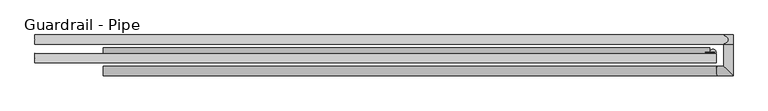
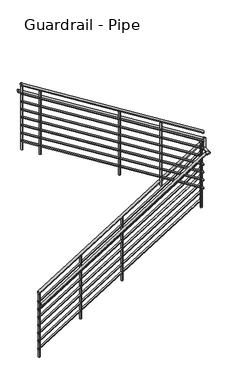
"""IFC4 building model written with IfcOpenShell, lengths in millimetres: railing geometry, Guardrail - Pipe."""

from ifc_helpers import new_model, si_unit, point, frame, frame_2d, origin, place, context, project, spatial, circle_curve, ellipse_curve, trimmed, segment, composite_curve, outline, extrude, faceted_brep, source, transform, mapped, element, save
from ifc_brep_helpers import plane_surface, cylinder_surface, advanced_brep


def guardrail_pipe_2feb66e3(model_context):
    return source(origin(), model_context, "Body", "SolidModel", [
        advanced_brep(
        [(-2631.8939612, 10554.0699505, 1218.5231361), (-2631.8939612, 10515.9699505, 1218.5231361), (-142.6939612, 10554.0699505, 2770.232227), (-142.6939612, 10515.9699505, 2770.232227)],
        [
            (0, 1, ellipse_curve(frame((-2631.8939612, 10535.0199505, 1218.5231361), z_axis=(-1.0, 0.0, 0.0), x_axis=(0.0, 0.0, -1.0)), 22.4482925, 19.05)),
            (1, 0, ellipse_curve(frame((-2631.8939612, 10535.0199505, 1218.5231361), z_axis=(-1.0, 0.0, 0.0), x_axis=(0.0, 0.0, -1.0)), 22.4482925, 19.05)),
            (2, 3, ellipse_curve(frame((-142.6939612, 10535.0199505, 2770.232227), z_axis=(1.0, 0.0, 0.0), x_axis=(0.0, 0.0, -1.0)), 22.4482925, 19.05)),
            (3, 2, ellipse_curve(frame((-142.6939612, 10535.0199505, 2770.232227), z_axis=(1.0, 0.0, 0.0), x_axis=(0.0, 0.0, -1.0)), 22.4482925, 19.05)),
            (0, 2),
            (3, 1),
        ],
        [
            plane_surface(frame((-2631.8939612, 10535.0199505, 1240.9714286), z_axis=(-1.0, 0.0, 0.0), x_axis=(0.0, 1.0, 0.0))),
            plane_surface(frame((-142.6939612, 10535.0199505, 2792.6805195), z_axis=(1.0, 0.0, 0.0), x_axis=(0.0, 1.0, 0.0))),
            cylinder_surface(frame((-2621.8163602, 10535.0199505, 1224.805277), z_axis=(-0.8486168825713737, 0.0, -0.5290079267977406), x_axis=(0.0, -1.0, 0.0)), 19.05),
        ],
        [
            (0, [[1, 2]]),
            (1, [[3, 4]]),
            (2, [[-1, 5, -4, 6]]),
            (2, [[-2, -6, -3, -5]]),
        ],
    ),
        advanced_brep(
        [(-161.7439612, 10535.0199505, 2789.4642857), (-123.6439612, 10535.0199505, 2789.4642857), (-161.7439612, 10536.659643, 2789.4642857), (-123.6439612, 10536.659643, 2789.4642857)],
        [
            (0, 1, circle_curve(frame((-142.6939612, 10535.0199505, 2789.4642857), z_axis=(0.0, -1.0, 0.0), x_axis=(1.0, 0.0, 0.0)), 19.05)),
            (1, 0, circle_curve(frame((-142.6939612, 10535.0199505, 2789.4642857), z_axis=(0.0, -1.0, 0.0), x_axis=(1.0, 0.0, 0.0)), 19.05)),
            (2, 3, circle_curve(frame((-142.6939612, 10536.659643, 2789.4642857), z_axis=(0.0, 1.0, 0.0), x_axis=(1.0, 0.0, 0.0)), 19.05)),
            (3, 2, circle_curve(frame((-142.6939612, 10536.659643, 2789.4642857), z_axis=(0.0, 1.0, 0.0), x_axis=(1.0, 0.0, 0.0)), 19.05)),
            (0, 2),
            (3, 1),
        ],
        [
            plane_surface(frame((-142.6939612, 10535.0199505, 2808.5142857), z_axis=(0.0, -1.0, 0.0), x_axis=(0.0, 0.0, 1.0))),
            plane_surface(frame((-142.6939612, 10536.659643, 2808.5142857), z_axis=(0.0, 1.0, 0.0), x_axis=(0.0, 0.0, 1.0))),
            cylinder_surface(frame((-142.6939612, 10535.0199505, 2789.4642857), z_axis=(0.0, -1.0, 0.0), x_axis=(1.0, 0.0, 0.0)), 19.05),
        ],
        [
            (0, [[1, 2]]),
            (1, [[3, 4]]),
            (2, [[-1, 5, -4, 6]]),
            (2, [[-2, -6, -3, -5]]),
        ],
    ),
        advanced_brep(
        [(-117.2939612, 10492.209643, 2960.2374218), (-117.2939612, 10530.309643, 2960.2374218), (-2911.2939612, 10492.209643, 4701.9517075), (-2911.2939612, 10530.309643, 4701.9517075)],
        [
            (0, 1, ellipse_curve(frame((-117.2939612, 10511.259643, 2960.2374218), z_axis=(1.0, 0.0, 0.0), x_axis=(0.0, 0.0, -1.0)), 22.4482925, 19.05)),
            (1, 0, ellipse_curve(frame((-117.2939612, 10511.259643, 2960.2374218), z_axis=(1.0, 0.0, 0.0), x_axis=(0.0, 0.0, -1.0)), 22.4482925, 19.05)),
            (2, 3, ellipse_curve(frame((-2911.2939612, 10511.259643, 4701.9517075), z_axis=(-1.0, 0.0, 0.0), x_axis=(0.0, 0.0, -1.0)), 22.4482925, 19.05)),
            (3, 2, ellipse_curve(frame((-2911.2939612, 10511.259643, 4701.9517075), z_axis=(-1.0, 0.0, 0.0), x_axis=(0.0, 0.0, -1.0)), 22.4482925, 19.05)),
            (0, 2),
            (3, 1),
        ],
        [
            plane_surface(frame((-117.2939612, 10511.259643, 2982.6857143), z_axis=(1.0, 0.0, 0.0), x_axis=(0.0, -1.0, 0.0))),
            plane_surface(frame((-2911.2939612, 10511.259643, 4724.4), z_axis=(-1.0, 0.0, 0.0), x_axis=(0.0, -1.0, 0.0))),
            cylinder_surface(frame((-127.3715622, 10511.259643, 2966.5195627), z_axis=(0.8486168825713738, 0.0, -0.5290079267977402), x_axis=(0.0, 1.0, 0.0)), 19.05),
        ],
        [
            (0, [[1, 2]]),
            (1, [[3, 4]]),
            (2, [[-1, 5, -4, 6]]),
            (2, [[-2, -6, -3, -5]]),
        ],
    ),
        advanced_brep(
        [(-2631.8939612, 10547.7199505, 1073.6059002), (-2631.8939612, 10522.3199505, 1073.6059002), (-142.6939612, 10547.7199505, 2625.3149911), (-142.6939612, 10522.3199505, 2625.3149911)],
        [
            (0, 1, ellipse_curve(frame((-2631.8939612, 10535.0199505, 1073.6059002), z_axis=(-1.0, 0.0, 0.0), x_axis=(0.0, 0.0, -1.0)), 14.9655283, 12.7)),
            (1, 0, ellipse_curve(frame((-2631.8939612, 10535.0199505, 1073.6059002), z_axis=(-1.0, 0.0, 0.0), x_axis=(0.0, 0.0, -1.0)), 14.9655283, 12.7)),
            (2, 3, ellipse_curve(frame((-142.6939612, 10535.0199505, 2625.3149911), z_axis=(1.0, 0.0, 0.0), x_axis=(0.0, 0.0, -1.0)), 14.9655283, 12.7)),
            (3, 2, ellipse_curve(frame((-142.6939612, 10535.0199505, 2625.3149911), z_axis=(1.0, 0.0, 0.0), x_axis=(0.0, 0.0, -1.0)), 14.9655283, 12.7)),
            (0, 2),
            (3, 1),
        ],
        [
            plane_surface(frame((-2631.8939612, 10535.0199505, 1088.5714286), z_axis=(-1.0, 0.0, 0.0), x_axis=(0.0, 1.0, 0.0))),
            plane_surface(frame((-142.6939612, 10535.0199505, 2640.2805195), z_axis=(1.0, 0.0, 0.0), x_axis=(0.0, 1.0, 0.0))),
            cylinder_surface(frame((-2625.1755605, 10535.0199505, 1077.7939942), z_axis=(-0.8486168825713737, 0.0, -0.5290079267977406), x_axis=(0.0, -1.0, 0.0)), 12.7),
        ],
        [
            (0, [[1, 2]]),
            (1, [[3, 4]]),
            (2, [[-1, 5, -4, 6]]),
            (2, [[-2, -6, -3, -5]]),
        ],
    ),
        advanced_brep(
        [(-155.3939612, 10535.0199505, 2643.4142857), (-129.9939612, 10535.0199505, 2643.4142857), (-155.3939612, 10536.659643, 2643.4142857), (-129.9939612, 10536.659643, 2643.4142857)],
        [
            (0, 1, circle_curve(frame((-142.6939612, 10535.0199505, 2643.4142857), z_axis=(0.0, -1.0, 0.0), x_axis=(1.0, 0.0, 0.0)), 12.7)),
            (1, 0, circle_curve(frame((-142.6939612, 10535.0199505, 2643.4142857), z_axis=(0.0, -1.0, 0.0), x_axis=(1.0, 0.0, 0.0)), 12.7)),
            (2, 3, circle_curve(frame((-142.6939612, 10536.659643, 2643.4142857), z_axis=(0.0, 1.0, 0.0), x_axis=(1.0, 0.0, 0.0)), 12.7)),
            (3, 2, circle_curve(frame((-142.6939612, 10536.659643, 2643.4142857), z_axis=(0.0, 1.0, 0.0), x_axis=(1.0, 0.0, 0.0)), 12.7)),
            (0, 2),
            (3, 1),
        ],
        [
            plane_surface(frame((-142.6939612, 10535.0199505, 2656.1142857), z_axis=(0.0, -1.0, 0.0), x_axis=(0.0, 0.0, 1.0))),
            plane_surface(frame((-142.6939612, 10536.659643, 2656.1142857), z_axis=(0.0, 1.0, 0.0), x_axis=(0.0, 0.0, 1.0))),
            cylinder_surface(frame((-142.6939612, 10535.0199505, 2643.4142857), z_axis=(0.0, -1.0, 0.0), x_axis=(1.0, 0.0, 0.0)), 12.7),
        ],
        [
            (0, [[1, 2]]),
            (1, [[3, 4]]),
            (2, [[-1, 5, -4, 6]]),
            (2, [[-2, -6, -3, -5]]),
        ],
    ),
        advanced_brep(
        [(-117.2939612, 10498.559643, 2815.320186), (-117.2939612, 10523.959643, 2815.320186), (-2911.2939612, 10498.559643, 4557.0344717), (-2911.2939612, 10523.959643, 4557.0344717)],
        [
            (0, 1, ellipse_curve(frame((-117.2939612, 10511.259643, 2815.320186), z_axis=(1.0, 0.0, 0.0), x_axis=(0.0, 0.0, -1.0)), 14.9655283, 12.7)),
            (1, 0, ellipse_curve(frame((-117.2939612, 10511.259643, 2815.320186), z_axis=(1.0, 0.0, 0.0), x_axis=(0.0, 0.0, -1.0)), 14.9655283, 12.7)),
            (2, 3, ellipse_curve(frame((-2911.2939612, 10511.259643, 4557.0344717), z_axis=(-1.0, 0.0, 0.0), x_axis=(0.0, 0.0, -1.0)), 14.9655283, 12.7)),
            (3, 2, ellipse_curve(frame((-2911.2939612, 10511.259643, 4557.0344717), z_axis=(-1.0, 0.0, 0.0), x_axis=(0.0, 0.0, -1.0)), 14.9655283, 12.7)),
            (0, 2),
            (3, 1),
        ],
        [
            plane_surface(frame((-117.2939612, 10511.259643, 2830.2857143), z_axis=(1.0, 0.0, 0.0), x_axis=(0.0, -1.0, 0.0))),
            plane_surface(frame((-2911.2939612, 10511.259643, 4572.0), z_axis=(-1.0, 0.0, 0.0), x_axis=(0.0, -1.0, 0.0))),
            cylinder_surface(frame((-124.0123619, 10511.259643, 2819.5082799), z_axis=(0.8486168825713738, 0.0, -0.5290079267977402), x_axis=(0.0, 1.0, 0.0)), 12.7),
        ],
        [
            (0, [[1, 2]]),
            (1, [[3, 4]]),
            (2, [[-1, 5, -4, 6]]),
            (2, [[-2, -6, -3, -5]]),
        ],
    ),
        advanced_brep(
        [(-2631.8939612, 10477.8699505, 1066.1231361), (-2631.8939612, 10439.7699505, 1066.1231361), (-111.8425336, 10477.8699505, 2637.0642857), (-111.8425336, 10439.7699505, 2637.0642857), (-85.5439612, 10477.8699505, 2637.0642857), (-47.4439612, 10439.7699505, 2637.0642857), (-85.5439612, 10587.459643, 2637.0642857), (-47.4439612, 10587.459643, 2637.0642857)],
        [
            (0, 1, ellipse_curve(frame((-2631.8939612, 10458.8199505, 1066.1231361), z_axis=(-1.0, 0.0, 0.0), x_axis=(0.0, 0.0, -1.0)), 22.4482925, 19.05)),
            (1, 0, ellipse_curve(frame((-2631.8939612, 10458.8199505, 1066.1231361), z_axis=(-1.0, 0.0, 0.0), x_axis=(0.0, 0.0, -1.0)), 22.4482925, 19.05)),
            (0, 2),
            (2, 3, ellipse_curve(frame((-111.8425336, 10458.8199505, 2637.0642857), z_axis=(-0.9614096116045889, 0.0, -0.275120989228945), x_axis=(0.27512098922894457, 0.0, -0.9614096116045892)), 19.8146552, 19.05)),
            (3, 1),
            (3, 2, ellipse_curve(frame((-111.8425336, 10458.8199505, 2637.0642857), z_axis=(-0.9614096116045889, 0.0, -0.275120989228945), x_axis=(0.27512098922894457, 0.0, -0.9614096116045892)), 19.8146552, 19.05)),
            (2, 4),
            (4, 5, ellipse_curve(frame((-66.4939612, 10458.8199505, 2637.0642857), z_axis=(-0.7071067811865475, -0.7071067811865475, 0.0), x_axis=(-0.7071067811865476, 0.7071067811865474, 0.0)), 26.9407684, 19.05)),
            (5, 3),
            (5, 4, ellipse_curve(frame((-66.4939612, 10458.8199505, 2637.0642857), z_axis=(-0.7071067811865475, -0.7071067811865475, 0.0), x_axis=(-0.7071067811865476, 0.7071067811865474, 0.0)), 26.9407684, 19.05)),
            (6, 7, circle_curve(frame((-66.4939612, 10587.459643, 2637.0642857), z_axis=(0.0, 1.0, 0.0), x_axis=(1.0, 0.0, 0.0)), 19.05)),
            (7, 6, circle_curve(frame((-66.4939612, 10587.459643, 2637.0642857), z_axis=(0.0, 1.0, 0.0), x_axis=(1.0, 0.0, 0.0)), 19.05)),
            (4, 6),
            (7, 5),
        ],
        [
            plane_surface(frame((-2631.8939612, 10458.8199505, 1088.5714286), z_axis=(-1.0, 0.0, 0.0), x_axis=(0.0, 1.0, 0.0))),
            cylinder_surface(frame((-2621.8163602, 10458.8199505, 1072.405277), z_axis=(-0.8486168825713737, 0.0, -0.5290079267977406), x_axis=(0.0, -1.0, 0.0)), 19.05),
            cylinder_surface(frame((-117.2939612, 10458.8199505, 2637.0642857), z_axis=(-1.0, 0.0, 0.0), x_axis=(0.0, -1.0, 0.0)), 19.05),
            plane_surface(frame((-66.4939612, 10587.459643, 2656.1142857), z_axis=(0.0, 1.0, 0.0), x_axis=(0.0, 0.0, 1.0))),
            cylinder_surface(frame((-66.4939612, 10458.8199505, 2637.0642857), z_axis=(0.0, -1.0, 0.0), x_axis=(1.0, 0.0, 0.0)), 19.05),
        ],
        [
            (0, [[1, 2]]),
            (1, [[-1, 3, 4, 5]]),
            (1, [[-2, -5, 6, -3]]),
            (2, [[-4, 7, 8, 9]]),
            (2, [[-6, -9, 10, -7]]),
            (3, [[11, 12]]),
            (4, [[-8, 13, -12, 14]]),
            (4, [[-10, -14, -11, -13]]),
        ],
    ),
        faceted_brep([(-85.5439612, 10606.509643, 2618.0142857), (-47.4439612, 10606.509643, 2618.0142857), (-47.4439612, 10568.409643, 2618.0142857), (-85.5439612, 10568.409643, 2618.0142857), (-85.5439612, 10606.509643, 2798.6181818), (-85.5439612, 10568.409643, 2798.6181818), (-47.4439612, 10568.409643, 2798.6181818), (-47.4439612, 10606.509643, 2798.6181818)], [[[0, 1, 2, 3]], [[4, 5, 6, 7]], [[1, 0, 4, 7]], [[2, 1, 7, 6]], [[3, 2, 6, 5]], [[0, 3, 5, 4]]]),
        advanced_brep(
        [(-66.4939612, 10568.409643, 2776.1698893), (-66.4939612, 10606.509643, 2776.1698893), (-2911.2939612, 10568.409643, 4549.5517075), (-2911.2939612, 10606.509643, 4549.5517075)],
        [
            (0, 1, ellipse_curve(frame((-66.4939612, 10587.459643, 2776.1698893), z_axis=(1.0, 0.0, 0.0), x_axis=(0.0, 0.0, -1.0)), 22.4482925, 19.05)),
            (1, 0, ellipse_curve(frame((-66.4939612, 10587.459643, 2776.1698893), z_axis=(1.0, 0.0, 0.0), x_axis=(0.0, 0.0, -1.0)), 22.4482925, 19.05)),
            (2, 3, ellipse_curve(frame((-2911.2939612, 10587.459643, 4549.5517075), z_axis=(-1.0, 0.0, 0.0), x_axis=(0.0, 0.0, -1.0)), 22.4482925, 19.05)),
            (3, 2, ellipse_curve(frame((-2911.2939612, 10587.459643, 4549.5517075), z_axis=(-1.0, 0.0, 0.0), x_axis=(0.0, 0.0, -1.0)), 22.4482925, 19.05)),
            (0, 2),
            (3, 1),
        ],
        [
            plane_surface(frame((-66.4939612, 10587.459643, 2798.6181818), z_axis=(1.0, 0.0, 0.0), x_axis=(0.0, -1.0, 0.0))),
            plane_surface(frame((-2911.2939612, 10587.459643, 4572.0), z_axis=(-1.0, 0.0, 0.0), x_axis=(0.0, -1.0, 0.0))),
            cylinder_surface(frame((-76.5715622, 10587.459643, 2782.4520302), z_axis=(0.8486168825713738, 0.0, -0.5290079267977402), x_axis=(0.0, 1.0, 0.0)), 19.05),
        ],
        [
            (0, [[1, 2]]),
            (1, [[3, 4]]),
            (2, [[-1, 5, -4, 6]]),
            (2, [[-2, -6, -3, -5]]),
        ],
    ),
        advanced_brep(
        [(-2631.8939612, 10547.7199505, 946.6059002), (-2631.8939612, 10522.3199505, 946.6059002), (-142.6939612, 10547.7199505, 2498.3149911), (-142.6939612, 10522.3199505, 2498.3149911)],
        [
            (0, 1, ellipse_curve(frame((-2631.8939612, 10535.0199505, 946.6059002), z_axis=(-1.0, 0.0, 0.0), x_axis=(0.0, 0.0, -1.0)), 14.9655283, 12.7)),
            (1, 0, ellipse_curve(frame((-2631.8939612, 10535.0199505, 946.6059002), z_axis=(-1.0, 0.0, 0.0), x_axis=(0.0, 0.0, -1.0)), 14.9655283, 12.7)),
            (2, 3, ellipse_curve(frame((-142.6939612, 10535.0199505, 2498.3149911), z_axis=(1.0, 0.0, 0.0), x_axis=(0.0, 0.0, -1.0)), 14.9655283, 12.7)),
            (3, 2, ellipse_curve(frame((-142.6939612, 10535.0199505, 2498.3149911), z_axis=(1.0, 0.0, 0.0), x_axis=(0.0, 0.0, -1.0)), 14.9655283, 12.7)),
            (0, 2),
            (3, 1),
        ],
        [
            plane_surface(frame((-2631.8939612, 10535.0199505, 961.5714286), z_axis=(-1.0, 0.0, 0.0), x_axis=(0.0, 1.0, 0.0))),
            plane_surface(frame((-142.6939612, 10535.0199505, 2513.2805195), z_axis=(1.0, 0.0, 0.0), x_axis=(0.0, 1.0, 0.0))),
            cylinder_surface(frame((-2625.1755605, 10535.0199505, 950.7939942), z_axis=(-0.8486168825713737, 0.0, -0.5290079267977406), x_axis=(0.0, -1.0, 0.0)), 12.7),
        ],
        [
            (0, [[1, 2]]),
            (1, [[3, 4]]),
            (2, [[-1, 5, -4, 6]]),
            (2, [[-2, -6, -3, -5]]),
        ],
    ),
        advanced_brep(
        [(-155.3939612, 10535.0199505, 2516.4142857), (-129.9939612, 10535.0199505, 2516.4142857), (-155.3939612, 10536.659643, 2516.4142857), (-129.9939612, 10536.659643, 2516.4142857)],
        [
            (0, 1, circle_curve(frame((-142.6939612, 10535.0199505, 2516.4142857), z_axis=(0.0, -1.0, 0.0), x_axis=(1.0, 0.0, 0.0)), 12.7)),
            (1, 0, circle_curve(frame((-142.6939612, 10535.0199505, 2516.4142857), z_axis=(0.0, -1.0, 0.0), x_axis=(1.0, 0.0, 0.0)), 12.7)),
            (2, 3, circle_curve(frame((-142.6939612, 10536.659643, 2516.4142857), z_axis=(0.0, 1.0, 0.0), x_axis=(1.0, 0.0, 0.0)), 12.7)),
            (3, 2, circle_curve(frame((-142.6939612, 10536.659643, 2516.4142857), z_axis=(0.0, 1.0, 0.0), x_axis=(1.0, 0.0, 0.0)), 12.7)),
            (0, 2),
            (3, 1),
        ],
        [
            plane_surface(frame((-142.6939612, 10535.0199505, 2529.1142857), z_axis=(0.0, -1.0, 0.0), x_axis=(0.0, 0.0, 1.0))),
            plane_surface(frame((-142.6939612, 10536.659643, 2529.1142857), z_axis=(0.0, 1.0, 0.0), x_axis=(0.0, 0.0, 1.0))),
            cylinder_surface(frame((-142.6939612, 10535.0199505, 2516.4142857), z_axis=(0.0, -1.0, 0.0), x_axis=(1.0, 0.0, 0.0)), 12.7),
        ],
        [
            (0, [[1, 2]]),
            (1, [[3, 4]]),
            (2, [[-1, 5, -4, 6]]),
            (2, [[-2, -6, -3, -5]]),
        ],
    ),
        advanced_brep(
        [(-117.2939612, 10498.559643, 2688.320186), (-117.2939612, 10523.959643, 2688.320186), (-2911.2939612, 10498.559643, 4430.0344717), (-2911.2939612, 10523.959643, 4430.0344717)],
        [
            (0, 1, ellipse_curve(frame((-117.2939612, 10511.259643, 2688.320186), z_axis=(1.0, 0.0, 0.0), x_axis=(0.0, 0.0, -1.0)), 14.9655283, 12.7)),
            (1, 0, ellipse_curve(frame((-117.2939612, 10511.259643, 2688.320186), z_axis=(1.0, 0.0, 0.0), x_axis=(0.0, 0.0, -1.0)), 14.9655283, 12.7)),
            (2, 3, ellipse_curve(frame((-2911.2939612, 10511.259643, 4430.0344717), z_axis=(-1.0, 0.0, 0.0), x_axis=(0.0, 0.0, -1.0)), 14.9655283, 12.7)),
            (3, 2, ellipse_curve(frame((-2911.2939612, 10511.259643, 4430.0344717), z_axis=(-1.0, 0.0, 0.0), x_axis=(0.0, 0.0, -1.0)), 14.9655283, 12.7)),
            (0, 2),
            (3, 1),
        ],
        [
            plane_surface(frame((-117.2939612, 10511.259643, 2703.2857143), z_axis=(1.0, 0.0, 0.0), x_axis=(0.0, -1.0, 0.0))),
            plane_surface(frame((-2911.2939612, 10511.259643, 4445.0), z_axis=(-1.0, 0.0, 0.0), x_axis=(0.0, -1.0, 0.0))),
            cylinder_surface(frame((-124.0123619, 10511.259643, 2692.5082799), z_axis=(0.8486168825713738, 0.0, -0.5290079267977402), x_axis=(0.0, 1.0, 0.0)), 12.7),
        ],
        [
            (0, [[1, 2]]),
            (1, [[3, 4]]),
            (2, [[-1, 5, -4, 6]]),
            (2, [[-2, -6, -3, -5]]),
        ],
    ),
        advanced_brep(
        [(-2631.8939612, 10547.7199505, 819.6059002), (-2631.8939612, 10522.3199505, 819.6059002), (-142.6939612, 10547.7199505, 2371.3149911), (-142.6939612, 10522.3199505, 2371.3149911)],
        [
            (0, 1, ellipse_curve(frame((-2631.8939612, 10535.0199505, 819.6059002), z_axis=(-1.0, 0.0, 0.0), x_axis=(0.0, 0.0, -1.0)), 14.9655283, 12.7)),
            (1, 0, ellipse_curve(frame((-2631.8939612, 10535.0199505, 819.6059002), z_axis=(-1.0, 0.0, 0.0), x_axis=(0.0, 0.0, -1.0)), 14.9655283, 12.7)),
            (2, 3, ellipse_curve(frame((-142.6939612, 10535.0199505, 2371.3149911), z_axis=(1.0, 0.0, 0.0), x_axis=(0.0, 0.0, -1.0)), 14.9655283, 12.7)),
            (3, 2, ellipse_curve(frame((-142.6939612, 10535.0199505, 2371.3149911), z_axis=(1.0, 0.0, 0.0), x_axis=(0.0, 0.0, -1.0)), 14.9655283, 12.7)),
            (0, 2),
            (3, 1),
        ],
        [
            plane_surface(frame((-2631.8939612, 10535.0199505, 834.5714286), z_axis=(-1.0, 0.0, 0.0), x_axis=(0.0, 1.0, 0.0))),
            plane_surface(frame((-142.6939612, 10535.0199505, 2386.2805195), z_axis=(1.0, 0.0, 0.0), x_axis=(0.0, 1.0, 0.0))),
            cylinder_surface(frame((-2625.1755605, 10535.0199505, 823.7939942), z_axis=(-0.8486168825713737, 0.0, -0.5290079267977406), x_axis=(0.0, -1.0, 0.0)), 12.7),
        ],
        [
            (0, [[1, 2]]),
            (1, [[3, 4]]),
            (2, [[-1, 5, -4, 6]]),
            (2, [[-2, -6, -3, -5]]),
        ],
    ),
        advanced_brep(
        [(-155.3939612, 10535.0199505, 2389.4142857), (-129.9939612, 10535.0199505, 2389.4142857), (-155.3939612, 10536.659643, 2389.4142857), (-129.9939612, 10536.659643, 2389.4142857)],
        [
            (0, 1, circle_curve(frame((-142.6939612, 10535.0199505, 2389.4142857), z_axis=(0.0, -1.0, 0.0), x_axis=(1.0, 0.0, 0.0)), 12.7)),
            (1, 0, circle_curve(frame((-142.6939612, 10535.0199505, 2389.4142857), z_axis=(0.0, -1.0, 0.0), x_axis=(1.0, 0.0, 0.0)), 12.7)),
            (2, 3, circle_curve(frame((-142.6939612, 10536.659643, 2389.4142857), z_axis=(0.0, 1.0, 0.0), x_axis=(1.0, 0.0, 0.0)), 12.7)),
            (3, 2, circle_curve(frame((-142.6939612, 10536.659643, 2389.4142857), z_axis=(0.0, 1.0, 0.0), x_axis=(1.0, 0.0, 0.0)), 12.7)),
            (0, 2),
            (3, 1),
        ],
        [
            plane_surface(frame((-142.6939612, 10535.0199505, 2402.1142857), z_axis=(0.0, -1.0, 0.0), x_axis=(0.0, 0.0, 1.0))),
            plane_surface(frame((-142.6939612, 10536.659643, 2402.1142857), z_axis=(0.0, 1.0, 0.0), x_axis=(0.0, 0.0, 1.0))),
            cylinder_surface(frame((-142.6939612, 10535.0199505, 2389.4142857), z_axis=(0.0, -1.0, 0.0), x_axis=(1.0, 0.0, 0.0)), 12.7),
        ],
        [
            (0, [[1, 2]]),
            (1, [[3, 4]]),
            (2, [[-1, 5, -4, 6]]),
            (2, [[-2, -6, -3, -5]]),
        ],
    ),
        advanced_brep(
        [(-117.2939612, 10498.559643, 2561.320186), (-117.2939612, 10523.959643, 2561.320186), (-2911.2939612, 10498.559643, 4303.0344717), (-2911.2939612, 10523.959643, 4303.0344717)],
        [
            (0, 1, ellipse_curve(frame((-117.2939612, 10511.259643, 2561.320186), z_axis=(1.0, 0.0, 0.0), x_axis=(0.0, 0.0, -1.0)), 14.9655283, 12.7)),
            (1, 0, ellipse_curve(frame((-117.2939612, 10511.259643, 2561.320186), z_axis=(1.0, 0.0, 0.0), x_axis=(0.0, 0.0, -1.0)), 14.9655283, 12.7)),
            (2, 3, ellipse_curve(frame((-2911.2939612, 10511.259643, 4303.0344717), z_axis=(-1.0, 0.0, 0.0), x_axis=(0.0, 0.0, -1.0)), 14.9655283, 12.7)),
            (3, 2, ellipse_curve(frame((-2911.2939612, 10511.259643, 4303.0344717), z_axis=(-1.0, 0.0, 0.0), x_axis=(0.0, 0.0, -1.0)), 14.9655283, 12.7)),
            (0, 2),
            (3, 1),
        ],
        [
            plane_surface(frame((-117.2939612, 10511.259643, 2576.2857143), z_axis=(1.0, 0.0, 0.0), x_axis=(0.0, -1.0, 0.0))),
            plane_surface(frame((-2911.2939612, 10511.259643, 4318.0), z_axis=(-1.0, 0.0, 0.0), x_axis=(0.0, -1.0, 0.0))),
            cylinder_surface(frame((-124.0123619, 10511.259643, 2565.5082799), z_axis=(0.8486168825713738, 0.0, -0.5290079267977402), x_axis=(0.0, 1.0, 0.0)), 12.7),
        ],
        [
            (0, [[1, 2]]),
            (1, [[3, 4]]),
            (2, [[-1, 5, -4, 6]]),
            (2, [[-2, -6, -3, -5]]),
        ],
    ),
        advanced_brep(
        [(-2631.8939612, 10547.7199505, 692.6059002), (-2631.8939612, 10522.3199505, 692.6059002), (-142.6939612, 10547.7199505, 2244.3149911), (-142.6939612, 10522.3199505, 2244.3149911)],
        [
            (0, 1, ellipse_curve(frame((-2631.8939612, 10535.0199505, 692.6059002), z_axis=(-1.0, 0.0, 0.0), x_axis=(0.0, 0.0, -1.0)), 14.9655283, 12.7)),
            (1, 0, ellipse_curve(frame((-2631.8939612, 10535.0199505, 692.6059002), z_axis=(-1.0, 0.0, 0.0), x_axis=(0.0, 0.0, -1.0)), 14.9655283, 12.7)),
            (2, 3, ellipse_curve(frame((-142.6939612, 10535.0199505, 2244.3149911), z_axis=(1.0, 0.0, 0.0), x_axis=(0.0, 0.0, -1.0)), 14.9655283, 12.7)),
            (3, 2, ellipse_curve(frame((-142.6939612, 10535.0199505, 2244.3149911), z_axis=(1.0, 0.0, 0.0), x_axis=(0.0, 0.0, -1.0)), 14.9655283, 12.7)),
            (0, 2),
            (3, 1),
        ],
        [
            plane_surface(frame((-2631.8939612, 10535.0199505, 707.5714286), z_axis=(-1.0, 0.0, 0.0), x_axis=(0.0, 1.0, 0.0))),
            plane_surface(frame((-142.6939612, 10535.0199505, 2259.2805195), z_axis=(1.0, 0.0, 0.0), x_axis=(0.0, 1.0, 0.0))),
            cylinder_surface(frame((-2625.1755605, 10535.0199505, 696.7939942), z_axis=(-0.8486168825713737, 0.0, -0.5290079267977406), x_axis=(0.0, -1.0, 0.0)), 12.7),
        ],
        [
            (0, [[1, 2]]),
            (1, [[3, 4]]),
            (2, [[-1, 5, -4, 6]]),
            (2, [[-2, -6, -3, -5]]),
        ],
    ),
        advanced_brep(
        [(-155.3939612, 10535.0199505, 2262.4142857), (-129.9939612, 10535.0199505, 2262.4142857), (-155.3939612, 10536.659643, 2262.4142857), (-129.9939612, 10536.659643, 2262.4142857)],
        [
            (0, 1, circle_curve(frame((-142.6939612, 10535.0199505, 2262.4142857), z_axis=(0.0, -1.0, 0.0), x_axis=(1.0, 0.0, 0.0)), 12.7)),
            (1, 0, circle_curve(frame((-142.6939612, 10535.0199505, 2262.4142857), z_axis=(0.0, -1.0, 0.0), x_axis=(1.0, 0.0, 0.0)), 12.7)),
            (2, 3, circle_curve(frame((-142.6939612, 10536.659643, 2262.4142857), z_axis=(0.0, 1.0, 0.0), x_axis=(1.0, 0.0, 0.0)), 12.7)),
            (3, 2, circle_curve(frame((-142.6939612, 10536.659643, 2262.4142857), z_axis=(0.0, 1.0, 0.0), x_axis=(1.0, 0.0, 0.0)), 12.7)),
            (0, 2),
            (3, 1),
        ],
        [
            plane_surface(frame((-142.6939612, 10535.0199505, 2275.1142857), z_axis=(0.0, -1.0, 0.0), x_axis=(0.0, 0.0, 1.0))),
            plane_surface(frame((-142.6939612, 10536.659643, 2275.1142857), z_axis=(0.0, 1.0, 0.0), x_axis=(0.0, 0.0, 1.0))),
            cylinder_surface(frame((-142.6939612, 10535.0199505, 2262.4142857), z_axis=(0.0, -1.0, 0.0), x_axis=(1.0, 0.0, 0.0)), 12.7),
        ],
        [
            (0, [[1, 2]]),
            (1, [[3, 4]]),
            (2, [[-1, 5, -4, 6]]),
            (2, [[-2, -6, -3, -5]]),
        ],
    ),
        advanced_brep(
        [(-117.2939612, 10498.559643, 2434.320186), (-117.2939612, 10523.959643, 2434.320186), (-2911.2939612, 10498.559643, 4176.0344717), (-2911.2939612, 10523.959643, 4176.0344717)],
        [
            (0, 1, ellipse_curve(frame((-117.2939612, 10511.259643, 2434.320186), z_axis=(1.0, 0.0, 0.0), x_axis=(0.0, 0.0, -1.0)), 14.9655283, 12.7)),
            (1, 0, ellipse_curve(frame((-117.2939612, 10511.259643, 2434.320186), z_axis=(1.0, 0.0, 0.0), x_axis=(0.0, 0.0, -1.0)), 14.9655283, 12.7)),
            (2, 3, ellipse_curve(frame((-2911.2939612, 10511.259643, 4176.0344717), z_axis=(-1.0, 0.0, 0.0), x_axis=(0.0, 0.0, -1.0)), 14.9655283, 12.7)),
            (3, 2, ellipse_curve(frame((-2911.2939612, 10511.259643, 4176.0344717), z_axis=(-1.0, 0.0, 0.0), x_axis=(0.0, 0.0, -1.0)), 14.9655283, 12.7)),
            (0, 2),
            (3, 1),
        ],
        [
            plane_surface(frame((-117.2939612, 10511.259643, 2449.2857143), z_axis=(1.0, 0.0, 0.0), x_axis=(0.0, -1.0, 0.0))),
            plane_surface(frame((-2911.2939612, 10511.259643, 4191.0), z_axis=(-1.0, 0.0, 0.0), x_axis=(0.0, -1.0, 0.0))),
            cylinder_surface(frame((-124.0123619, 10511.259643, 2438.5082799), z_axis=(0.8486168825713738, 0.0, -0.5290079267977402), x_axis=(0.0, 1.0, 0.0)), 12.7),
        ],
        [
            (0, [[1, 2]]),
            (1, [[3, 4]]),
            (2, [[-1, 5, -4, 6]]),
            (2, [[-2, -6, -3, -5]]),
        ],
    ),
        advanced_brep(
        [(-2631.8939612, 10547.7199505, 565.6059002), (-2631.8939612, 10522.3199505, 565.6059002), (-142.6939612, 10547.7199505, 2117.3149911), (-142.6939612, 10522.3199505, 2117.3149911)],
        [
            (0, 1, ellipse_curve(frame((-2631.8939612, 10535.0199505, 565.6059002), z_axis=(-1.0, 0.0, 0.0), x_axis=(0.0, 0.0, -1.0)), 14.9655283, 12.7)),
            (1, 0, ellipse_curve(frame((-2631.8939612, 10535.0199505, 565.6059002), z_axis=(-1.0, 0.0, 0.0), x_axis=(0.0, 0.0, -1.0)), 14.9655283, 12.7)),
            (2, 3, ellipse_curve(frame((-142.6939612, 10535.0199505, 2117.3149911), z_axis=(1.0, 0.0, 0.0), x_axis=(0.0, 0.0, -1.0)), 14.9655283, 12.7)),
            (3, 2, ellipse_curve(frame((-142.6939612, 10535.0199505, 2117.3149911), z_axis=(1.0, 0.0, 0.0), x_axis=(0.0, 0.0, -1.0)), 14.9655283, 12.7)),
            (0, 2),
            (3, 1),
        ],
        [
            plane_surface(frame((-2631.8939612, 10535.0199505, 580.5714286), z_axis=(-1.0, 0.0, 0.0), x_axis=(0.0, 1.0, 0.0))),
            plane_surface(frame((-142.6939612, 10535.0199505, 2132.2805195), z_axis=(1.0, 0.0, 0.0), x_axis=(0.0, 1.0, 0.0))),
            cylinder_surface(frame((-2625.1755605, 10535.0199505, 569.7939942), z_axis=(-0.8486168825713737, 0.0, -0.5290079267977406), x_axis=(0.0, -1.0, 0.0)), 12.7),
        ],
        [
            (0, [[1, 2]]),
            (1, [[3, 4]]),
            (2, [[-1, 5, -4, 6]]),
            (2, [[-2, -6, -3, -5]]),
        ],
    ),
        advanced_brep(
        [(-155.3939612, 10535.0199505, 2135.4142857), (-129.9939612, 10535.0199505, 2135.4142857), (-155.3939612, 10536.659643, 2135.4142857), (-129.9939612, 10536.659643, 2135.4142857)],
        [
            (0, 1, circle_curve(frame((-142.6939612, 10535.0199505, 2135.4142857), z_axis=(0.0, -1.0, 0.0), x_axis=(1.0, 0.0, 0.0)), 12.7)),
            (1, 0, circle_curve(frame((-142.6939612, 10535.0199505, 2135.4142857), z_axis=(0.0, -1.0, 0.0), x_axis=(1.0, 0.0, 0.0)), 12.7)),
            (2, 3, circle_curve(frame((-142.6939612, 10536.659643, 2135.4142857), z_axis=(0.0, 1.0, 0.0), x_axis=(1.0, 0.0, 0.0)), 12.7)),
            (3, 2, circle_curve(frame((-142.6939612, 10536.659643, 2135.4142857), z_axis=(0.0, 1.0, 0.0), x_axis=(1.0, 0.0, 0.0)), 12.7)),
            (0, 2),
            (3, 1),
        ],
        [
            plane_surface(frame((-142.6939612, 10535.0199505, 2148.1142857), z_axis=(0.0, -1.0, 0.0), x_axis=(0.0, 0.0, 1.0))),
            plane_surface(frame((-142.6939612, 10536.659643, 2148.1142857), z_axis=(0.0, 1.0, 0.0), x_axis=(0.0, 0.0, 1.0))),
            cylinder_surface(frame((-142.6939612, 10535.0199505, 2135.4142857), z_axis=(0.0, -1.0, 0.0), x_axis=(1.0, 0.0, 0.0)), 12.7),
        ],
        [
            (0, [[1, 2]]),
            (1, [[3, 4]]),
            (2, [[-1, 5, -4, 6]]),
            (2, [[-2, -6, -3, -5]]),
        ],
    ),
        advanced_brep(
        [(-117.2939612, 10498.559643, 2307.320186), (-117.2939612, 10523.959643, 2307.320186), (-2911.2939612, 10498.559643, 4049.0344717), (-2911.2939612, 10523.959643, 4049.0344717)],
        [
            (0, 1, ellipse_curve(frame((-117.2939612, 10511.259643, 2307.320186), z_axis=(1.0, 0.0, 0.0), x_axis=(0.0, 0.0, -1.0)), 14.9655283, 12.7)),
            (1, 0, ellipse_curve(frame((-117.2939612, 10511.259643, 2307.320186), z_axis=(1.0, 0.0, 0.0), x_axis=(0.0, 0.0, -1.0)), 14.9655283, 12.7)),
            (2, 3, ellipse_curve(frame((-2911.2939612, 10511.259643, 4049.0344717), z_axis=(-1.0, 0.0, 0.0), x_axis=(0.0, 0.0, -1.0)), 14.9655283, 12.7)),
            (3, 2, ellipse_curve(frame((-2911.2939612, 10511.259643, 4049.0344717), z_axis=(-1.0, 0.0, 0.0), x_axis=(0.0, 0.0, -1.0)), 14.9655283, 12.7)),
            (0, 2),
            (3, 1),
        ],
        [
            plane_surface(frame((-117.2939612, 10511.259643, 2322.2857143), z_axis=(1.0, 0.0, 0.0), x_axis=(0.0, -1.0, 0.0))),
            plane_surface(frame((-2911.2939612, 10511.259643, 4064.0), z_axis=(-1.0, 0.0, 0.0), x_axis=(0.0, -1.0, 0.0))),
            cylinder_surface(frame((-124.0123619, 10511.259643, 2311.5082799), z_axis=(0.8486168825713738, 0.0, -0.5290079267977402), x_axis=(0.0, 1.0, 0.0)), 12.7),
        ],
        [
            (0, [[1, 2]]),
            (1, [[3, 4]]),
            (2, [[-1, 5, -4, 6]]),
            (2, [[-2, -6, -3, -5]]),
        ],
    ),
        advanced_brep(
        [(-2631.8939612, 10547.7199505, 438.6059002), (-2631.8939612, 10522.3199505, 438.6059002), (-142.6939612, 10547.7199505, 1990.3149911), (-142.6939612, 10522.3199505, 1990.3149911)],
        [
            (0, 1, ellipse_curve(frame((-2631.8939612, 10535.0199505, 438.6059002), z_axis=(-1.0, 0.0, 0.0), x_axis=(0.0, 0.0, -1.0)), 14.9655283, 12.7)),
            (1, 0, ellipse_curve(frame((-2631.8939612, 10535.0199505, 438.6059002), z_axis=(-1.0, 0.0, 0.0), x_axis=(0.0, 0.0, -1.0)), 14.9655283, 12.7)),
            (2, 3, ellipse_curve(frame((-142.6939612, 10535.0199505, 1990.3149911), z_axis=(1.0, 0.0, 0.0), x_axis=(0.0, 0.0, -1.0)), 14.9655283, 12.7)),
            (3, 2, ellipse_curve(frame((-142.6939612, 10535.0199505, 1990.3149911), z_axis=(1.0, 0.0, 0.0), x_axis=(0.0, 0.0, -1.0)), 14.9655283, 12.7)),
            (0, 2),
            (3, 1),
        ],
        [
            plane_surface(frame((-2631.8939612, 10535.0199505, 453.5714286), z_axis=(-1.0, 0.0, 0.0), x_axis=(0.0, 1.0, 0.0))),
            plane_surface(frame((-142.6939612, 10535.0199505, 2005.2805195), z_axis=(1.0, 0.0, 0.0), x_axis=(0.0, 1.0, 0.0))),
            cylinder_surface(frame((-2625.1755605, 10535.0199505, 442.7939942), z_axis=(-0.8486168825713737, 0.0, -0.5290079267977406), x_axis=(0.0, -1.0, 0.0)), 12.7),
        ],
        [
            (0, [[1, 2]]),
            (1, [[3, 4]]),
            (2, [[-1, 5, -4, 6]]),
            (2, [[-2, -6, -3, -5]]),
        ],
    ),
        advanced_brep(
        [(-155.3939612, 10535.0199505, 2008.4142857), (-129.9939612, 10535.0199505, 2008.4142857), (-155.3939612, 10536.659643, 2008.4142857), (-129.9939612, 10536.659643, 2008.4142857)],
        [
            (0, 1, circle_curve(frame((-142.6939612, 10535.0199505, 2008.4142857), z_axis=(0.0, -1.0, 0.0), x_axis=(1.0, 0.0, 0.0)), 12.7)),
            (1, 0, circle_curve(frame((-142.6939612, 10535.0199505, 2008.4142857), z_axis=(0.0, -1.0, 0.0), x_axis=(1.0, 0.0, 0.0)), 12.7)),
            (2, 3, circle_curve(frame((-142.6939612, 10536.659643, 2008.4142857), z_axis=(0.0, 1.0, 0.0), x_axis=(1.0, 0.0, 0.0)), 12.7)),
            (3, 2, circle_curve(frame((-142.6939612, 10536.659643, 2008.4142857), z_axis=(0.0, 1.0, 0.0), x_axis=(1.0, 0.0, 0.0)), 12.7)),
            (0, 2),
            (3, 1),
        ],
        [
            plane_surface(frame((-142.6939612, 10535.0199505, 2021.1142857), z_axis=(0.0, -1.0, 0.0), x_axis=(0.0, 0.0, 1.0))),
            plane_surface(frame((-142.6939612, 10536.659643, 2021.1142857), z_axis=(0.0, 1.0, 0.0), x_axis=(0.0, 0.0, 1.0))),
            cylinder_surface(frame((-142.6939612, 10535.0199505, 2008.4142857), z_axis=(0.0, -1.0, 0.0), x_axis=(1.0, 0.0, 0.0)), 12.7),
        ],
        [
            (0, [[1, 2]]),
            (1, [[3, 4]]),
            (2, [[-1, 5, -4, 6]]),
            (2, [[-2, -6, -3, -5]]),
        ],
    ),
        advanced_brep(
        [(-117.2939612, 10498.559643, 2180.320186), (-117.2939612, 10523.959643, 2180.320186), (-2911.2939612, 10498.559643, 3922.0344717), (-2911.2939612, 10523.959643, 3922.0344717)],
        [
            (0, 1, ellipse_curve(frame((-117.2939612, 10511.259643, 2180.320186), z_axis=(1.0, 0.0, 0.0), x_axis=(0.0, 0.0, -1.0)), 14.9655283, 12.7)),
            (1, 0, ellipse_curve(frame((-117.2939612, 10511.259643, 2180.320186), z_axis=(1.0, 0.0, 0.0), x_axis=(0.0, 0.0, -1.0)), 14.9655283, 12.7)),
            (2, 3, ellipse_curve(frame((-2911.2939612, 10511.259643, 3922.0344717), z_axis=(-1.0, 0.0, 0.0), x_axis=(0.0, 0.0, -1.0)), 14.9655283, 12.7)),
            (3, 2, ellipse_curve(frame((-2911.2939612, 10511.259643, 3922.0344717), z_axis=(-1.0, 0.0, 0.0), x_axis=(0.0, 0.0, -1.0)), 14.9655283, 12.7)),
            (0, 2),
            (3, 1),
        ],
        [
            plane_surface(frame((-117.2939612, 10511.259643, 2195.2857143), z_axis=(1.0, 0.0, 0.0), x_axis=(0.0, -1.0, 0.0))),
            plane_surface(frame((-2911.2939612, 10511.259643, 3937.0), z_axis=(-1.0, 0.0, 0.0), x_axis=(0.0, -1.0, 0.0))),
            cylinder_surface(frame((-124.0123619, 10511.259643, 2184.5082799), z_axis=(0.8486168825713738, 0.0, -0.5290079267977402), x_axis=(0.0, 1.0, 0.0)), 12.7),
        ],
        [
            (0, [[1, 2]]),
            (1, [[3, 4]]),
            (2, [[-1, 5, -4, 6]]),
            (2, [[-2, -6, -3, -5]]),
        ],
    ),
        advanced_brep(
        [(-2631.8939612, 10547.7199505, 311.6059002), (-2631.8939612, 10522.3199505, 311.6059002), (-142.6939612, 10547.7199505, 1863.3149911), (-142.6939612, 10522.3199505, 1863.3149911)],
        [
            (0, 1, ellipse_curve(frame((-2631.8939612, 10535.0199505, 311.6059002), z_axis=(-1.0, 0.0, 0.0), x_axis=(0.0, 0.0, -1.0)), 14.9655283, 12.7)),
            (1, 0, ellipse_curve(frame((-2631.8939612, 10535.0199505, 311.6059002), z_axis=(-1.0, 0.0, 0.0), x_axis=(0.0, 0.0, -1.0)), 14.9655283, 12.7)),
            (2, 3, ellipse_curve(frame((-142.6939612, 10535.0199505, 1863.3149911), z_axis=(1.0, 0.0, 0.0), x_axis=(0.0, 0.0, -1.0)), 14.9655283, 12.7)),
            (3, 2, ellipse_curve(frame((-142.6939612, 10535.0199505, 1863.3149911), z_axis=(1.0, 0.0, 0.0), x_axis=(0.0, 0.0, -1.0)), 14.9655283, 12.7)),
            (0, 2),
            (3, 1),
        ],
        [
            plane_surface(frame((-2631.8939612, 10535.0199505, 326.5714286), z_axis=(-1.0, 0.0, 0.0), x_axis=(0.0, 1.0, 0.0))),
            plane_surface(frame((-142.6939612, 10535.0199505, 1878.2805195), z_axis=(1.0, 0.0, 0.0), x_axis=(0.0, 1.0, 0.0))),
            cylinder_surface(frame((-2625.1755605, 10535.0199505, 315.7939942), z_axis=(-0.8486168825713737, 0.0, -0.5290079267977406), x_axis=(0.0, -1.0, 0.0)), 12.7),
        ],
        [
            (0, [[1, 2]]),
            (1, [[3, 4]]),
            (2, [[-1, 5, -4, 6]]),
            (2, [[-2, -6, -3, -5]]),
        ],
    ),
        advanced_brep(
        [(-155.3939612, 10535.0199505, 1881.4142857), (-129.9939612, 10535.0199505, 1881.4142857), (-155.3939612, 10536.659643, 1881.4142857), (-129.9939612, 10536.659643, 1881.4142857)],
        [
            (0, 1, circle_curve(frame((-142.6939612, 10535.0199505, 1881.4142857), z_axis=(0.0, -1.0, 0.0), x_axis=(1.0, 0.0, 0.0)), 12.7)),
            (1, 0, circle_curve(frame((-142.6939612, 10535.0199505, 1881.4142857), z_axis=(0.0, -1.0, 0.0), x_axis=(1.0, 0.0, 0.0)), 12.7)),
            (2, 3, circle_curve(frame((-142.6939612, 10536.659643, 1881.4142857), z_axis=(0.0, 1.0, 0.0), x_axis=(1.0, 0.0, 0.0)), 12.7)),
            (3, 2, circle_curve(frame((-142.6939612, 10536.659643, 1881.4142857), z_axis=(0.0, 1.0, 0.0), x_axis=(1.0, 0.0, 0.0)), 12.7)),
            (0, 2),
            (3, 1),
        ],
        [
            plane_surface(frame((-142.6939612, 10535.0199505, 1894.1142857), z_axis=(0.0, -1.0, 0.0), x_axis=(0.0, 0.0, 1.0))),
            plane_surface(frame((-142.6939612, 10536.659643, 1894.1142857), z_axis=(0.0, 1.0, 0.0), x_axis=(0.0, 0.0, 1.0))),
            cylinder_surface(frame((-142.6939612, 10535.0199505, 1881.4142857), z_axis=(0.0, -1.0, 0.0), x_axis=(1.0, 0.0, 0.0)), 12.7),
        ],
        [
            (0, [[1, 2]]),
            (1, [[3, 4]]),
            (2, [[-1, 5, -4, 6]]),
            (2, [[-2, -6, -3, -5]]),
        ],
    ),
        advanced_brep(
        [(-117.2939612, 10498.559643, 2053.320186), (-117.2939612, 10523.959643, 2053.320186), (-2911.2939612, 10498.559643, 3795.0344717), (-2911.2939612, 10523.959643, 3795.0344717)],
        [
            (0, 1, ellipse_curve(frame((-117.2939612, 10511.259643, 2053.320186), z_axis=(1.0, 0.0, 0.0), x_axis=(0.0, 0.0, -1.0)), 14.9655283, 12.7)),
            (1, 0, ellipse_curve(frame((-117.2939612, 10511.259643, 2053.320186), z_axis=(1.0, 0.0, 0.0), x_axis=(0.0, 0.0, -1.0)), 14.9655283, 12.7)),
            (2, 3, ellipse_curve(frame((-2911.2939612, 10511.259643, 3795.0344717), z_axis=(-1.0, 0.0, 0.0), x_axis=(0.0, 0.0, -1.0)), 14.9655283, 12.7)),
            (3, 2, ellipse_curve(frame((-2911.2939612, 10511.259643, 3795.0344717), z_axis=(-1.0, 0.0, 0.0), x_axis=(0.0, 0.0, -1.0)), 14.9655283, 12.7)),
            (0, 2),
            (3, 1),
        ],
        [
            plane_surface(frame((-117.2939612, 10511.259643, 2068.2857143), z_axis=(1.0, 0.0, 0.0), x_axis=(0.0, -1.0, 0.0))),
            plane_surface(frame((-2911.2939612, 10511.259643, 3810.0), z_axis=(-1.0, 0.0, 0.0), x_axis=(0.0, -1.0, 0.0))),
            cylinder_surface(frame((-124.0123619, 10511.259643, 2057.5082799), z_axis=(0.8486168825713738, 0.0, -0.5290079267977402), x_axis=(0.0, 1.0, 0.0)), 12.7),
        ],
        [
            (0, [[1, 2]]),
            (1, [[3, 4]]),
            (2, [[-1, 5, -4, 6]]),
            (2, [[-2, -6, -3, -5]]),
        ],
    ),
        advanced_brep(
        [(-2898.9123767, 10523.959643, 3649.8816097), (-2898.9123767, 10498.559643, 3649.8816097), (-2898.9123767, 10498.559643, 4671.7850247), (-2898.9123767, 10523.959643, 4671.7850247)],
        [
            (0, 1, circle_curve(frame((-2898.9123767, 10511.259643, 3649.8816097), z_axis=(0.0, 0.0, -1.0), x_axis=(0.0, -1.0, 0.0)), 12.7)),
            (1, 0, circle_curve(frame((-2898.9123767, 10511.259643, 3649.8816097), z_axis=(0.0, 0.0, -1.0), x_axis=(0.0, -1.0, 0.0)), 12.7)),
            (1, 2),
            (2, 3, ellipse_curve(frame((-2898.9123767, 10511.259643, 4671.7850247), z_axis=(-0.5290079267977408, 0.0, -0.8486168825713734), x_axis=(-0.8486168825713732, 0.0, 0.5290079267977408)), 14.9655283, 12.7)),
            (3, 0),
            (3, 2, ellipse_curve(frame((-2898.9123767, 10511.259643, 4671.7850247), z_axis=(-0.5290079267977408, 0.0, -0.8486168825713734), x_axis=(-0.8486168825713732, 0.0, 0.5290079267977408)), 14.9655283, 12.7)),
        ],
        [
            plane_surface(frame((-2898.9123767, 10498.559643, 3649.8816097), z_axis=(0.0, 0.0, -1.0), x_axis=(-1.0, 0.0, 0.0))),
            cylinder_surface(frame((-2898.9123767, 10511.259643, 3649.8816097), z_axis=(0.0, 0.0, 1.0), x_axis=(0.0, -1.0, 0.0)), 12.7),
            plane_surface(frame((-2933.8373767, 10464.0338131, 4693.5564532), z_axis=(0.5290079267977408, 0.0, 0.8486168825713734), x_axis=(0.0, 1.0, 0.0))),
        ],
        [
            (0, [[1, 2]]),
            (1, [[-2, 3, 4, 5]]),
            (1, [[-1, -5, 6, -3]]),
            (2, [[-4, -6]]),
        ],
    ),
        advanced_brep(
        [(-2619.5123767, 10523.959643, 3475.7101811), (-2619.5123767, 10498.559643, 3475.7101811), (-2619.5123767, 10498.559643, 4497.6135961), (-2619.5123767, 10523.959643, 4497.6135961)],
        [
            (0, 1, circle_curve(frame((-2619.5123767, 10511.259643, 3475.7101811), z_axis=(0.0, 0.0, -1.0), x_axis=(0.0, -1.0, 0.0)), 12.7)),
            (1, 0, circle_curve(frame((-2619.5123767, 10511.259643, 3475.7101811), z_axis=(0.0, 0.0, -1.0), x_axis=(0.0, -1.0, 0.0)), 12.7)),
            (1, 2),
            (2, 3, ellipse_curve(frame((-2619.5123767, 10511.259643, 4497.6135961), z_axis=(-0.5290079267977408, 0.0, -0.8486168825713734), x_axis=(-0.8486168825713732, 0.0, 0.5290079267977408)), 14.9655283, 12.7)),
            (3, 0),
            (3, 2, ellipse_curve(frame((-2619.5123767, 10511.259643, 4497.6135961), z_axis=(-0.5290079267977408, 0.0, -0.8486168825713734), x_axis=(-0.8486168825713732, 0.0, 0.5290079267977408)), 14.9655283, 12.7)),
        ],
        [
            plane_surface(frame((-2619.5123767, 10498.559643, 3475.7101811), z_axis=(0.0, 0.0, -1.0), x_axis=(-1.0, 0.0, 0.0))),
            cylinder_surface(frame((-2619.5123767, 10511.259643, 3475.7101811), z_axis=(0.0, 0.0, 1.0), x_axis=(0.0, -1.0, 0.0)), 12.7),
            plane_surface(frame((-2654.4373767, 10464.0338131, 4519.3850247), z_axis=(0.5290079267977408, 0.0, 0.8486168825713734), x_axis=(0.0, 1.0, 0.0))),
        ],
        [
            (0, [[1, 2]]),
            (1, [[-2, 3, 4, 5]]),
            (1, [[-1, -5, 6, -3]]),
            (2, [[-4, -6]]),
        ],
    ),
        advanced_brep(
        [(-1400.3123767, 10523.959643, 2715.6894019), (-1400.3123767, 10498.559643, 2715.6894019), (-1400.3123767, 10498.559643, 3737.5928169), (-1400.3123767, 10523.959643, 3737.5928169)],
        [
            (0, 1, circle_curve(frame((-1400.3123767, 10511.259643, 2715.6894019), z_axis=(0.0, 0.0, -1.0), x_axis=(0.0, -1.0, 0.0)), 12.7)),
            (1, 0, circle_curve(frame((-1400.3123767, 10511.259643, 2715.6894019), z_axis=(0.0, 0.0, -1.0), x_axis=(0.0, -1.0, 0.0)), 12.7)),
            (1, 2),
            (2, 3, ellipse_curve(frame((-1400.3123767, 10511.259643, 3737.5928169), z_axis=(-0.5290079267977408, 0.0, -0.8486168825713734), x_axis=(-0.8486168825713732, 0.0, 0.5290079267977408)), 14.9655283, 12.7)),
            (3, 0),
            (3, 2, ellipse_curve(frame((-1400.3123767, 10511.259643, 3737.5928169), z_axis=(-0.5290079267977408, 0.0, -0.8486168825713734), x_axis=(-0.8486168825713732, 0.0, 0.5290079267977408)), 14.9655283, 12.7)),
        ],
        [
            plane_surface(frame((-1400.3123767, 10498.559643, 2715.6894019), z_axis=(0.0, 0.0, -1.0), x_axis=(-1.0, 0.0, 0.0))),
            cylinder_surface(frame((-1400.3123767, 10511.259643, 2715.6894019), z_axis=(0.0, 0.0, 1.0), x_axis=(0.0, -1.0, 0.0)), 12.7),
            plane_surface(frame((-1435.2373767, 10464.0338131, 3759.3642455), z_axis=(0.5290079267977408, 0.0, 0.8486168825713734), x_axis=(0.0, 1.0, 0.0))),
        ],
        [
            (0, [[1, 2]]),
            (1, [[-2, 3, 4, 5]]),
            (1, [[-1, -5, 6, -3]]),
            (2, [[-4, -6]]),
        ],
    ),
        advanced_brep(
        [(-764.9939612, 10523.959643, 2319.6467532), (-764.9939612, 10498.559643, 2319.6467532), (-764.9939612, 10498.559643, 3341.5501682), (-764.9939612, 10523.959643, 3341.5501682)],
        [
            (0, 1, circle_curve(frame((-764.9939612, 10511.259643, 2319.6467532), z_axis=(0.0, 0.0, -1.0), x_axis=(0.0, -1.0, 0.0)), 12.7)),
            (1, 0, circle_curve(frame((-764.9939612, 10511.259643, 2319.6467532), z_axis=(0.0, 0.0, -1.0), x_axis=(0.0, -1.0, 0.0)), 12.7)),
            (1, 2),
            (2, 3, ellipse_curve(frame((-764.9939612, 10511.259643, 3341.5501682), z_axis=(-0.5290079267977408, 0.0, -0.8486168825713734), x_axis=(-0.8486168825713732, 0.0, 0.5290079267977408)), 14.9655283, 12.7)),
            (3, 0),
            (3, 2, ellipse_curve(frame((-764.9939612, 10511.259643, 3341.5501682), z_axis=(-0.5290079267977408, 0.0, -0.8486168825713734), x_axis=(-0.8486168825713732, 0.0, 0.5290079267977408)), 14.9655283, 12.7)),
        ],
        [
            plane_surface(frame((-764.9939612, 10498.559643, 2319.6467532), z_axis=(0.0, 0.0, -1.0), x_axis=(-1.0, 0.0, 0.0))),
            cylinder_surface(frame((-764.9939612, 10511.259643, 2319.6467532), z_axis=(0.0, 0.0, 1.0), x_axis=(0.0, -1.0, 0.0)), 12.7),
            plane_surface(frame((-799.9189612, 10464.0338131, 3363.3215968), z_axis=(0.5290079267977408, 0.0, 0.8486168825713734), x_axis=(0.0, 1.0, 0.0))),
        ],
        [
            (0, [[1, 2]]),
            (1, [[-2, 3, 4, 5]]),
            (1, [[-1, -5, 6, -3]]),
            (2, [[-4, -6]]),
        ],
    ),
        extrude(outline(composite_curve([segment(trimmed(circle_curve(frame_2d((-142.6939612, 10524.2780585)), 12.7), [point((-129.9939612, 10524.2780585))], [point((-155.3939612, 10524.2780585))], False, "CARTESIAN"), True, "CONTINUOUS"), segment(trimmed(circle_curve(frame_2d((-142.6939612, 10524.2780585)), 12.7), [point((-155.3939612, 10524.2780585))], [point((-129.9939612, 10524.2780585))], False, "CARTESIAN"), True, "CONTINUOUS")], self_intersect=False)), frame((0.0, 0.0, 1741.7142857), z_axis=(0.0, 0.0, 1.0), x_axis=(1.0, 0.0, 0.0)), (0.0, 0.0, 1.0), 1028.7),
        advanced_brep(
        [(-129.6755457, 10522.3199505, 1733.9958954), (-129.6755457, 10547.7199505, 1733.9958954), (-129.6755457, 10547.7199505, 2755.8993104), (-129.6755457, 10522.3199505, 2755.8993104)],
        [
            (0, 1, circle_curve(frame((-129.6755457, 10535.0199505, 1733.9958954), z_axis=(0.0, 0.0, -1.0), x_axis=(0.0, 1.0, 0.0)), 12.7)),
            (1, 0, circle_curve(frame((-129.6755457, 10535.0199505, 1733.9958954), z_axis=(0.0, 0.0, -1.0), x_axis=(0.0, 1.0, 0.0)), 12.7)),
            (1, 2),
            (2, 3, ellipse_curve(frame((-129.6755457, 10535.0199505, 2755.8993104), z_axis=(0.5290079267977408, 0.0, -0.8486168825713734), x_axis=(0.8486168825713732, 0.0, 0.5290079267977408)), 14.9655283, 12.7)),
            (3, 0),
            (3, 2, ellipse_curve(frame((-129.6755457, 10535.0199505, 2755.8993104), z_axis=(0.5290079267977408, 0.0, -0.8486168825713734), x_axis=(0.8486168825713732, 0.0, 0.5290079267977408)), 14.9655283, 12.7)),
        ],
        [
            plane_surface(frame((-129.6755457, 10547.7199505, 1733.9958954), z_axis=(0.0, 0.0, -1.0), x_axis=(1.0, 0.0, 0.0))),
            cylinder_surface(frame((-129.6755457, 10535.0199505, 1733.9958954), z_axis=(0.0, 0.0, 1.0), x_axis=(0.0, 1.0, 0.0)), 12.7),
            plane_surface(frame((-94.7505457, 10582.2457804, 2777.670739), z_axis=(-0.5290079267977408, 0.0, 0.8486168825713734), x_axis=(0.0, -1.0, 0.0))),
        ],
        [
            (0, [[1, 2]]),
            (1, [[-2, 3, 4, 5]]),
            (1, [[-1, -5, 6, -3]]),
            (2, [[-4, -6]]),
        ],
    ),
        advanced_brep(
        [(-1348.8755457, 10522.3199505, 973.9751162), (-1348.8755457, 10547.7199505, 973.9751162), (-1348.8755457, 10547.7199505, 1995.8785312), (-1348.8755457, 10522.3199505, 1995.8785312)],
        [
            (0, 1, circle_curve(frame((-1348.8755457, 10535.0199505, 973.9751162), z_axis=(0.0, 0.0, -1.0), x_axis=(0.0, 1.0, 0.0)), 12.7)),
            (1, 0, circle_curve(frame((-1348.8755457, 10535.0199505, 973.9751162), z_axis=(0.0, 0.0, -1.0), x_axis=(0.0, 1.0, 0.0)), 12.7)),
            (1, 2),
            (2, 3, ellipse_curve(frame((-1348.8755457, 10535.0199505, 1995.8785312), z_axis=(0.5290079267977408, 0.0, -0.8486168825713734), x_axis=(0.8486168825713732, 0.0, 0.5290079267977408)), 14.9655283, 12.7)),
            (3, 0),
            (3, 2, ellipse_curve(frame((-1348.8755457, 10535.0199505, 1995.8785312), z_axis=(0.5290079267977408, 0.0, -0.8486168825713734), x_axis=(0.8486168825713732, 0.0, 0.5290079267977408)), 14.9655283, 12.7)),
        ],
        [
            plane_surface(frame((-1348.8755457, 10547.7199505, 973.9751162), z_axis=(0.0, 0.0, -1.0), x_axis=(1.0, 0.0, 0.0))),
            cylinder_surface(frame((-1348.8755457, 10535.0199505, 973.9751162), z_axis=(0.0, 0.0, 1.0), x_axis=(0.0, 1.0, 0.0)), 12.7),
            plane_surface(frame((-1313.9505457, 10582.2457804, 2017.6499597), z_axis=(-0.5290079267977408, 0.0, 0.8486168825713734), x_axis=(0.0, -1.0, 0.0))),
        ],
        [
            (0, [[1, 2]]),
            (1, [[-2, 3, 4, 5]]),
            (1, [[-1, -5, 6, -3]]),
            (2, [[-4, -6]]),
        ],
    ),
        advanced_brep(
        [(-1984.1939612, 10522.3199505, 577.9324675), (-1984.1939612, 10547.7199505, 577.9324675), (-1984.1939612, 10547.7199505, 1599.8358825), (-1984.1939612, 10522.3199505, 1599.8358825)],
        [
            (0, 1, circle_curve(frame((-1984.1939612, 10535.0199505, 577.9324675), z_axis=(0.0, 0.0, -1.0), x_axis=(0.0, 1.0, 0.0)), 12.7)),
            (1, 0, circle_curve(frame((-1984.1939612, 10535.0199505, 577.9324675), z_axis=(0.0, 0.0, -1.0), x_axis=(0.0, 1.0, 0.0)), 12.7)),
            (1, 2),
            (2, 3, ellipse_curve(frame((-1984.1939612, 10535.0199505, 1599.8358825), z_axis=(0.5290079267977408, 0.0, -0.8486168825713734), x_axis=(0.8486168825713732, 0.0, 0.5290079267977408)), 14.9655283, 12.7)),
            (3, 0),
            (3, 2, ellipse_curve(frame((-1984.1939612, 10535.0199505, 1599.8358825), z_axis=(0.5290079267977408, 0.0, -0.8486168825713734), x_axis=(0.8486168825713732, 0.0, 0.5290079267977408)), 14.9655283, 12.7)),
        ],
        [
            plane_surface(frame((-1984.1939612, 10547.7199505, 577.9324675), z_axis=(0.0, 0.0, -1.0), x_axis=(1.0, 0.0, 0.0))),
            cylinder_surface(frame((-1984.1939612, 10535.0199505, 577.9324675), z_axis=(0.0, 0.0, 1.0), x_axis=(0.0, 1.0, 0.0)), 12.7),
            plane_surface(frame((-1949.2689612, 10582.2457804, 1621.6073111), z_axis=(-0.5290079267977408, 0.0, 0.8486168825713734), x_axis=(0.0, -1.0, 0.0))),
        ],
        [
            (0, [[1, 2]]),
            (1, [[-2, 3, 4, 5]]),
            (1, [[-1, -5, 6, -3]]),
            (2, [[-4, -6]]),
        ],
    ),
        advanced_brep(
        [(-2619.5123767, 10522.3199505, 181.8898189), (-2619.5123767, 10547.7199505, 181.8898189), (-2619.5123767, 10547.7199505, 1203.7932339), (-2619.5123767, 10522.3199505, 1203.7932339)],
        [
            (0, 1, circle_curve(frame((-2619.5123767, 10535.0199505, 181.8898189), z_axis=(0.0, 0.0, -1.0), x_axis=(0.0, 1.0, 0.0)), 12.7)),
            (1, 0, circle_curve(frame((-2619.5123767, 10535.0199505, 181.8898189), z_axis=(0.0, 0.0, -1.0), x_axis=(0.0, 1.0, 0.0)), 12.7)),
            (1, 2),
            (2, 3, ellipse_curve(frame((-2619.5123767, 10535.0199505, 1203.7932339), z_axis=(0.5290079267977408, 0.0, -0.8486168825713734), x_axis=(0.8486168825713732, 0.0, 0.5290079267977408)), 14.9655283, 12.7)),
            (3, 0),
            (3, 2, ellipse_curve(frame((-2619.5123767, 10535.0199505, 1203.7932339), z_axis=(0.5290079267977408, 0.0, -0.8486168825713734), x_axis=(0.8486168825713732, 0.0, 0.5290079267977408)), 14.9655283, 12.7)),
        ],
        [
            plane_surface(frame((-2619.5123767, 10547.7199505, 181.8898189), z_axis=(0.0, 0.0, -1.0), x_axis=(1.0, 0.0, 0.0))),
            cylinder_surface(frame((-2619.5123767, 10535.0199505, 181.8898189), z_axis=(0.0, 0.0, 1.0), x_axis=(0.0, 1.0, 0.0)), 12.7),
            plane_surface(frame((-2584.5873767, 10582.2457804, 1225.5646625), z_axis=(-0.5290079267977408, 0.0, 0.8486168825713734), x_axis=(0.0, -1.0, 0.0))),
        ],
        [
            (0, [[1, 2]]),
            (1, [[-2, 3, 4, 5]]),
            (1, [[-1, -5, 6, -3]]),
            (2, [[-4, -6]]),
        ],
    ),
    ])


if __name__ == "__main__":
    model = new_model("IFC4")
    model_context = context("Model", 3, world=origin())
    ifc_project = project(units=[si_unit("LENGTHUNIT", "METRE", prefix="MILLI")], contexts=[model_context])
    site = spatial("IfcSite", under=ifc_project)
    building = spatial("IfcBuilding", under=site)
    placement = place(None, origin())
    guardrail_pipe_shape = guardrail_pipe_2feb66e3(model_context)
    element("IfcRailing", 1, ObjectType="Guardrail - Pipe", at=placement, inside=building, context=model_context, shape_type="MappedRepresentation", body=[
        mapped(guardrail_pipe_shape, transform((0.0, 0.0, 0.0), x_axis=(1.0, 0.0, 0.0), y_axis=(0.0, 1.0, 0.0), z_axis=(0.0, 0.0, 1.0))),
    ])
    save(model, "model.ifc")
